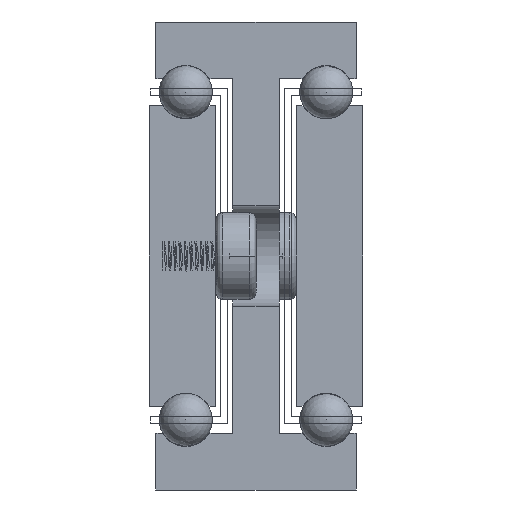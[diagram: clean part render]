
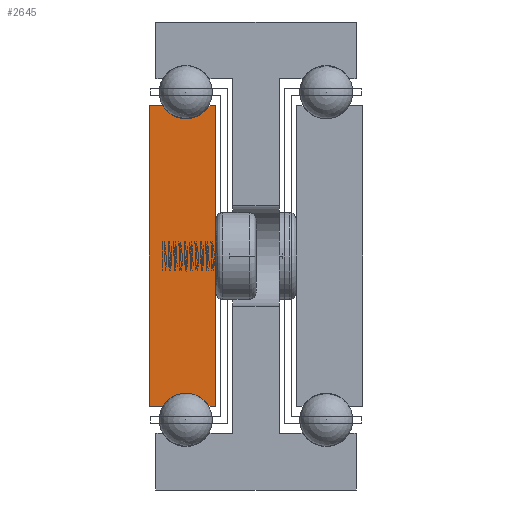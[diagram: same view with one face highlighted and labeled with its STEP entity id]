
A CAD part, front view. The second image highlights one B-rep face of the part: STEP entity #2645.
In plain terms, the highlighted planar face has unit normal (0, -1, 0).
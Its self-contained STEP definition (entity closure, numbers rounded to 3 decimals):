
#263=CIRCLE('',#2840,4.);
#265=CIRCLE('',#2846,4.);
#439=FACE_OUTER_BOUND('',#609,.T.);
#609=EDGE_LOOP('',(#2104,#2105,#2106,#2107,#2108,#2109,#2110,#2111));
#858=LINE('',#4012,#1070);
#861=LINE('',#4018,#1073);
#865=LINE('',#4030,#1077);
#868=LINE('',#4036,#1080);
#871=LINE('',#4042,#1083);
#875=LINE('',#4052,#1087);
#1070=VECTOR('',#3250,1.);
#1073=VECTOR('',#3255,1.);
#1077=VECTOR('',#3267,1.);
#1080=VECTOR('',#3272,1.);
#1083=VECTOR('',#3277,1.);
#1087=VECTOR('',#3289,1.);
#1282=VERTEX_POINT('',#4009);
#1283=VERTEX_POINT('',#4011);
#1285=VERTEX_POINT('',#4017);
#1287=VERTEX_POINT('',#4023);
#1289=VERTEX_POINT('',#4029);
#1291=VERTEX_POINT('',#4035);
#1293=VERTEX_POINT('',#4041);
#1295=VERTEX_POINT('',#4047);
#1604=EDGE_CURVE('',#1283,#1282,#858,.T.);
#1607=EDGE_CURVE('',#1285,#1283,#861,.T.);
#1610=EDGE_CURVE('',#1287,#1285,#263,.T.);
#1613=EDGE_CURVE('',#1289,#1287,#865,.T.);
#1616=EDGE_CURVE('',#1291,#1289,#868,.T.);
#1619=EDGE_CURVE('',#1293,#1291,#871,.T.);
#1622=EDGE_CURVE('',#1295,#1293,#265,.T.);
#1625=EDGE_CURVE('',#1282,#1295,#875,.T.);
#2104=ORIENTED_EDGE('',*,*,#1625,.T.);
#2105=ORIENTED_EDGE('',*,*,#1622,.T.);
#2106=ORIENTED_EDGE('',*,*,#1619,.T.);
#2107=ORIENTED_EDGE('',*,*,#1616,.T.);
#2108=ORIENTED_EDGE('',*,*,#1613,.T.);
#2109=ORIENTED_EDGE('',*,*,#1610,.T.);
#2110=ORIENTED_EDGE('',*,*,#1607,.T.);
#2111=ORIENTED_EDGE('',*,*,#1604,.T.);
#2547=PLANE('',#2849);
#2645=ADVANCED_FACE('',(#439),#2547,.T.);
#2840=AXIS2_PLACEMENT_3D('',#4024,#3261,#3262);
#2846=AXIS2_PLACEMENT_3D('',#4048,#3283,#3284);
#2849=AXIS2_PLACEMENT_3D('',#4054,#3292,#3293);
#3250=DIRECTION('',(0.,0.,-1.));
#3255=DIRECTION('',(-1.,0.,0.));
#3261=DIRECTION('center_axis',(0.,1.,0.));
#3262=DIRECTION('ref_axis',(-0.866,0.,-0.5));
#3267=DIRECTION('',(-1.,0.,0.));
#3272=DIRECTION('',(0.,0.,1.));
#3277=DIRECTION('',(1.,0.,0.));
#3283=DIRECTION('center_axis',(0.,1.,0.));
#3284=DIRECTION('ref_axis',(0.866,0.,0.5));
#3289=DIRECTION('',(1.,0.,0.));
#3292=DIRECTION('center_axis',(0.,-1.,0.));
#3293=DIRECTION('ref_axis',(1.,0.,0.));
#4009=CARTESIAN_POINT('',(-3372.784,1454.245,-161.266));
#4011=CARTESIAN_POINT('',(-3372.784,1454.245,-116.266));
#4012=CARTESIAN_POINT('',(-3372.784,1454.245,-161.266));
#4017=CARTESIAN_POINT('',(-3370.748,1454.245,-116.266));
#4018=CARTESIAN_POINT('',(-3372.784,1454.245,-116.266));
#4023=CARTESIAN_POINT('',(-3363.819,1454.245,-116.266));
#4024=CARTESIAN_POINT('Origin',(-3367.284,1454.245,-114.266));
#4029=CARTESIAN_POINT('',(-3362.784,1454.245,-116.266));
#4030=CARTESIAN_POINT('',(-3363.819,1454.245,-116.266));
#4035=CARTESIAN_POINT('',(-3362.784,1454.245,-161.266));
#4036=CARTESIAN_POINT('',(-3362.784,1454.245,-116.266));
#4041=CARTESIAN_POINT('',(-3363.819,1454.245,-161.266));
#4042=CARTESIAN_POINT('',(-3362.784,1454.245,-161.266));
#4047=CARTESIAN_POINT('',(-3370.748,1454.245,-161.266));
#4048=CARTESIAN_POINT('Origin',(-3367.284,1454.245,-163.266));
#4052=CARTESIAN_POINT('',(-3370.748,1454.245,-161.266));
#4054=CARTESIAN_POINT('Origin',(-3367.789,1454.245,-138.766));
